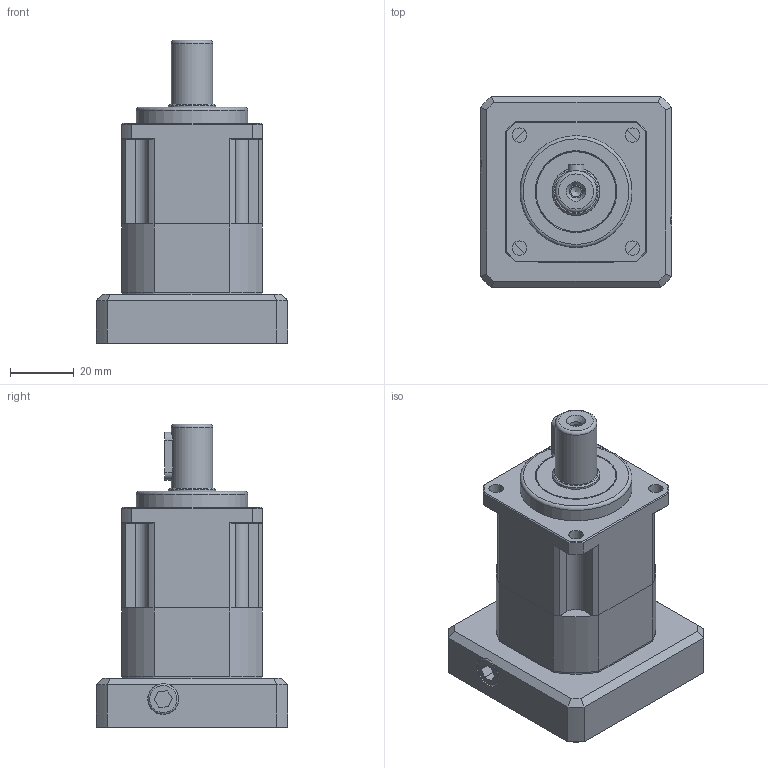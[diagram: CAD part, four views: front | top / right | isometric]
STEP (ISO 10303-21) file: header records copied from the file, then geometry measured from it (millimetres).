
FILE_DESCRIPTION((''),'2;1');
FILE_NAME('E:\감속기 도면\조립도(서보규격별)\KSB_PGX-H\KSB-44 (PGX44-H)\KSB-44-1(54-70-M4-S8).stp','2020-09-23T11:12:38',('young'),(''),'Autodesk Inventor 2012','Autodesk Inventor 2012','');
FILE_SCHEMA(('AUTOMOTIVE_DESIGN { 1 0 10303 214 1 1 1 1 }'));
Length unit declared in the file: millimetre
Products named in the file (4): 조립품3; PGX44-H-1; 44-BK(54-70-M4); BS 4168 : 부품 1 6각 소켓 머리 캡 나사 - 미터 M4 x 10
Assembly tree (6 placements, depth 2):
  조립품3
    PGX44-H-1
    44-BK(54-70-M4)
    BS 4168 : 부품 1 6각 소켓 머리 캡 나사 - 미터 M4 x 10  x4
Bounding box: 60 x 60 x 95 mm (x, y, z)
Volume: 114602.4 mm3; surface area: 44659.3 mm2
Topology: 16 solids, 16 shells, 433 faces, 1045 edges, 671 vertices
Faces by surface type: plane 228, cylinder 115, cone 67, torus 14, bspline 9
Full cylindrical faces by diameter (mm): 2.5 x4, 3.242 x1, 3.3 x9, 4 x6, 4.2 x4, 4.5 x9, 6 x4, 7 x5, 8.2 x1, 9.5 x2, 13 x1, 14.2 x1, 14.8 x2, 15 x3, 25 x4, 27 x1, 28 x1, 32 x2, 35 x1, 54 x1
Entity records: 11676 total; most frequent: CARTESIAN_POINT 2845, DIRECTION 1797, ORIENTED_EDGE 1652, EDGE_CURVE 826, AXIS2_PLACEMENT_3D 682, VERTEX_POINT 581, EDGE_LOOP 545, VECTOR 433
